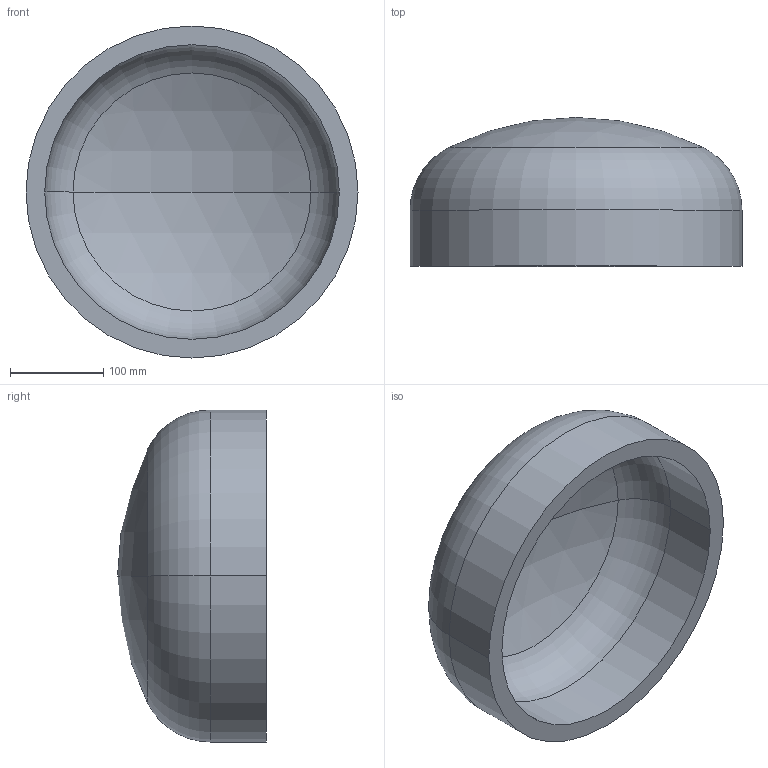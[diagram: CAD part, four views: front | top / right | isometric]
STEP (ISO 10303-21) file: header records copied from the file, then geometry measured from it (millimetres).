
FILE_DESCRIPTION (( 'STEP AP203' ), '1' );
FILE_NAME ('DIN 28013 Korbbogenform_-_Boden DIN 28013 - 355,6 x 60 - I - s=20.step', '2016-07-01T07:46:53', ( '' ), ( '' ), 'SwSTEP 2.0', 'SolidWorks 2013', '' );
FILE_SCHEMA (( 'CONFIG_CONTROL_DESIGN' ));
Length unit declared in the file: millimetre
Products named in the file (1): DIN 28013 Korbbogenform_-_Boden DIN 28013 - 355,6 x 60 - I - s=20
Bounding box: 355.6 x 159.37 x 355.6 mm (x, y, z)
Volume: 3827804.5 mm3; surface area: 404704.5 mm2
Topology: 1 solids, 1 shells, 13 faces, 24 edges, 14 vertices
Faces by surface type: torus 4, cylinder 4, sphere 4, plane 1
Entity records: 407 total; most frequent: DIRECTION 72, CARTESIAN_POINT 52, ORIENTED_EDGE 48, AXIS2_PLACEMENT_3D 34, EDGE_CURVE 24, CIRCLE 20, EDGE_LOOP 14, VERTEX_POINT 14
